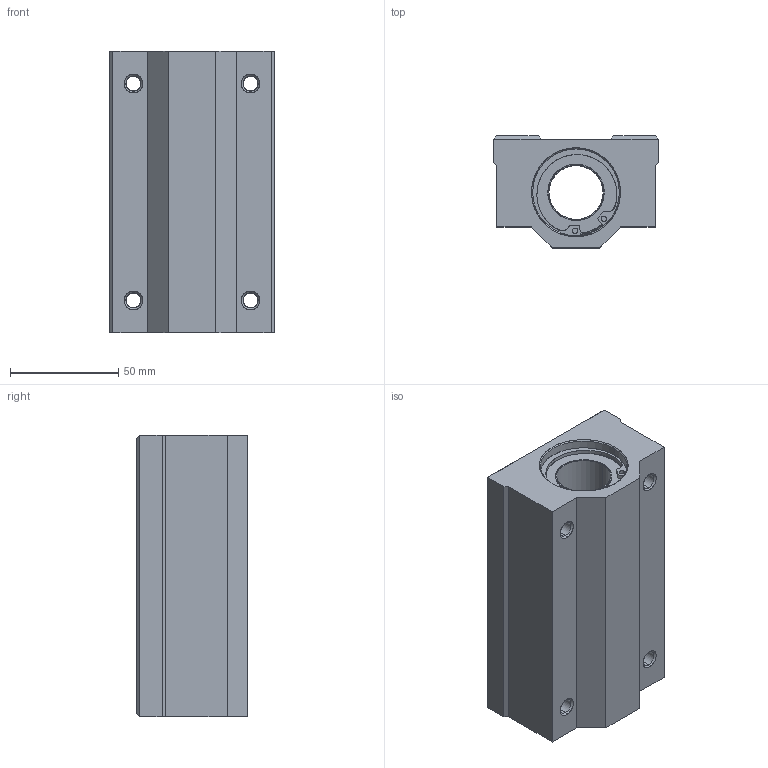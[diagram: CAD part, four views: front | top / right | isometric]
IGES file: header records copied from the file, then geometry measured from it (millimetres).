
Start section: SolidWorks IGES file using analytic representation for surfaces
Global section: file name: D:\SOLIDWORKS PROEKTI\freelance cnc cat\VTORA SERIJA\SC-LUU\SC25LUU.IGS; native system: SolidWorks 2016; preprocessor: SolidWorks 2016; author: User; date: 170806.102840; units: millimetre
Bounding box: 76 x 51.5 x 130 mm (x, y, z)
Surface area: 86517.4 mm2 (no closed solid volume)
Topology: 0 solids, 0 shells, 452 faces, 12029 edges, 14371 vertices
Faces by surface type: bspline 302, revolution 150
